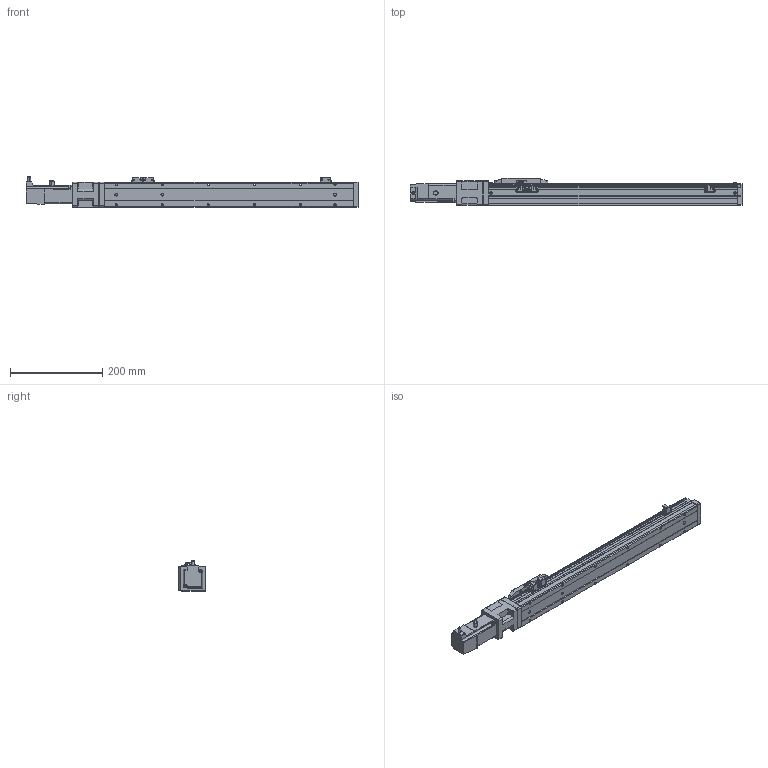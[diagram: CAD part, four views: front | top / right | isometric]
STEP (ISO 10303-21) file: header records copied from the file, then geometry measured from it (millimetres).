
FILE_DESCRIPTION (( 'STEP AP203' ), '1' );
FILE_NAME ('CTH5-L10-S400-BC-C10(¼ò).STEP', '2023-02-04T02:08:49', ( '' ), ( '' ), 'SwSTEP 2.0', 'SolidWorks 2018', '' );
FILE_SCHEMA (( 'CONFIG_CONTROL_DESIGN' ));
Length unit declared in the file: millimetre
Products named in the file (21): PM-Y45; CTH5賑怢; 嫖萇羲壽郪磁1; hex nuts, style 1-grades ab gb_GB_FASTENER_NUT_SNAB1 M3-N; 100W萇儂; CTH5-L10-S400-BC-C10(潠); CTH5耜晚蹟隊-1; 内六角圆柱头螺钉M3-2; M3｡｣; M3; T10-p1; CTH嫖萇羲壽假蚾啣; CTH5菁釱-L540; CTH5耜晚蹟隊; CTH5綴耜啣; 葩璃 蚾饜极13^CTH8-L10-S50-BM-C40(潠)1; CTH5萇儂釱欶; CTH5萇儂釱; CTH5-BC-03; CTH5ヶ耜啣(潠); CTH5覜茼え
Assembly tree (37 placements, depth 3):
  CTH5-L10-S400-BC-C10(潠)
    CTH5綴耜啣
    CTH5賑怢
    CTH5ヶ耜啣(潠)
    CTH5菁釱-L540
    CTH5耜晚蹟隊  x2
    CTH5萇儂釱
      CTH5-BC-03
    CTH5萇儂釱欶
    100W萇儂
      T10-p1
    嫖萇羲壽郪磁1  x2
      CTH嫖萇羲壽假蚾啣
      PM-Y45
      M3｡｣
      内六角圆柱头螺钉M3-2
      hex nuts, style 1-grades ab gb_GB_FASTENER_NUT_SNAB1 M3-N
    CTH5覜茼え
    葩璃 蚾饜极13^CTH8-L10-S50-BM-C40(潠)1
      CTH嫖萇羲壽假蚾啣
      PM-Y45
      内六角圆柱头螺钉M3-2  x2
      M3｡｣  x2
      hex nuts, style 1-grades ab gb_GB_FASTENER_NUT_SNAB1 M3-N  x2
    M3  x2
    CTH5耜晚蹟隊-1  x4
Bounding box: 721.1 x 60 x 65.7 mm (x, y, z)
Volume: 1509412.2 mm3; surface area: 228133.8 mm2
Topology: 40 solids, 40 shells, 1515 faces, 3778 edges, 2438 vertices
Faces by surface type: plane 848, cylinder 438, cone 167, torus 44, bspline 18
Entity records: 33843 total; most frequent: CARTESIAN_POINT 6208, DIRECTION 5334, ORIENTED_EDGE 5104, EDGE_CURVE 2552, AXIS2_PLACEMENT_3D 1835, VECTOR 1664, LINE 1664, VERTEX_POINT 1644
